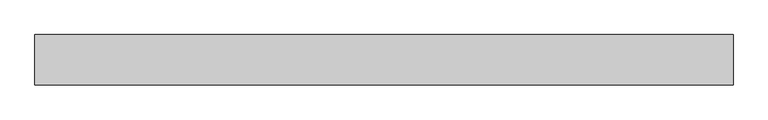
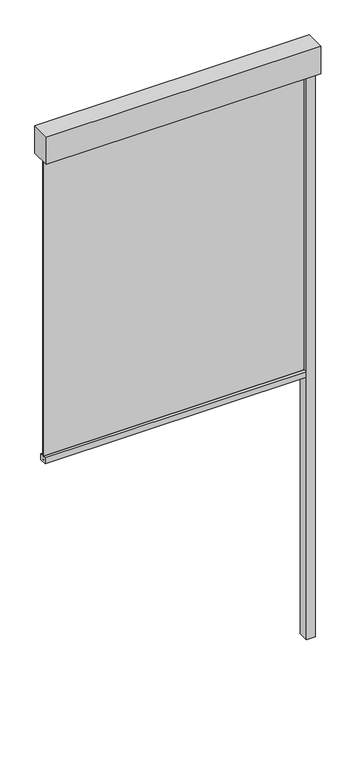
"""IFC4 building model written with IfcOpenShell, lengths in millimetres: proxy geometry, Renson_Fixscreen_Minimal_CW50_Reynaers_End : For Reynaers curtain wall - End element - Access downwards - Fabric close to the window."""

from ifc_helpers import new_model, si_unit, point, frame, frame_2d, origin, origin_with_axes, place, context, project, spatial, polyline, circle_curve, trimmed, segment, composite_curve, outline, extrude, source, transform, mapped, element, save


def generic_models_1d95561a(model_context):
    return source(origin(), model_context, "Body", "SweptSolid", [
        extrude(outline(polyline([(482.0, -693.5959909), (482.0, -703.7336963), (528.0, -703.7336963), (528.0, -693.5959909), (530.0, -693.5959909), (530.0, -751.4959909), (480.0, -751.4959909), (480.0, -693.5959909), (482.0, -693.5959909)])), origin_with_axes(), (0.0, 0.0, 1.0), 3340.0),
        extrude(outline(polyline([(-995.0, -693.5959909), (530.0, -693.5959909), (530.0, -803.5959909), (-995.0, -803.5959909), (-995.0, -693.5959909)])), frame((0.0, 0.0, 3340.0), z_axis=(0.0, 0.0, 1.0), x_axis=(1.0, 0.0, 0.0)), (0.0, 0.0, 1.0), 160.0),
        extrude(outline(composite_curve([segment(polyline([(-708.5959909, 1540.0), (-749.0958874, 1540.0), (-749.0958874, 1574.1156826), (-731.9717779, 1575.0000198)]), True, "CONTINUOUS"), segment(trimmed(circle_curve(frame_2d((-731.9459909, 1574.5006852)), 0.5), [point((-731.9717779, 1575.0000198))], [point((-731.4459909, 1574.5006852))], False, "CARTESIAN"), True, "CONTINUOUS"), segment(polyline([(-731.4459909, 1574.5006852), (-731.4459909, 1573.5367989), (-732.7111292, 1573.5367989), (-731.9708257, 1569.0119223)]), True, "CONTINUOUS"), segment(trimmed(circle_curve(frame_2d((-771.4459909, 1562.5534911)), 40.0), [point((-731.9708257, 1569.0119223))], [point((-731.4459909, 1562.5534911))], False, "CARTESIAN"), True, "CONTINUOUS"), segment(polyline([(-731.4459909, 1562.5534911), (-731.4459909, 1554.5006852)]), True, "CONTINUOUS"), segment(trimmed(circle_curve(frame_2d((-729.4459909, 1554.5006852)), 2.0), [point((-731.4459909, 1554.5006852))], [point((-729.4459909, 1552.5006852))], True, "CARTESIAN"), True, "CONTINUOUS"), segment(polyline([(-729.4459909, 1552.5006852), (-727.7459909, 1552.5006852)]), True, "CONTINUOUS"), segment(trimmed(circle_curve(frame_2d((-727.7459909, 1554.5006852)), 2.0), [point((-727.7459909, 1552.5006852))], [point((-725.7459909, 1554.5006852))], True, "CARTESIAN"), True, "CONTINUOUS"), segment(polyline([(-725.7459909, 1554.5006852), (-725.7459909, 1562.5534911)]), True, "CONTINUOUS"), segment(trimmed(circle_curve(frame_2d((-685.7459909, 1562.5534911)), 40.0), [point((-725.7459909, 1562.5534911))], [point((-725.221156, 1569.0119223))], False, "CARTESIAN"), True, "CONTINUOUS"), segment(polyline([(-725.221156, 1569.0119223), (-724.4808525, 1573.5367989), (-725.7459909, 1573.5367989), (-725.7459909, 1574.5006852)]), True, "CONTINUOUS"), segment(trimmed(circle_curve(frame_2d((-725.2459909, 1574.5006852)), 0.5), [point((-725.7459909, 1574.5006852))], [point((-725.2194276, 1574.9999791))], False, "CARTESIAN"), True, "CONTINUOUS"), segment(polyline([(-725.2194276, 1574.9999791), (-708.5959909, 1574.1156826), (-708.5959909, 1540.0)]), True, "CONTINUOUS")], self_intersect=False)), frame((-970.0, 0.0, 0.0), z_axis=(1.0, 0.0, 0.0), x_axis=(0.0, 1.0, 0.0)), (0.0, 0.0, 1.0), 1450.0),
        extrude(outline(polyline([(-970.0, -730.0959909), (-970.0, -727.0959909), (480.0, -727.0959909), (480.0, -730.0959909), (-970.0, -730.0959909)])), frame((0.0, 0.0, 1552.5006852), z_axis=(0.0, 0.0, 1.0), x_axis=(1.0, 0.0, 0.0)), (0.0, 0.0, 1.0), 1787.4993148),
    ])


if __name__ == "__main__":
    model = new_model("IFC4")
    model_context = context("Model", 3, world=origin())
    ifc_project = project(units=[si_unit("LENGTHUNIT", "METRE", prefix="MILLI")], contexts=[model_context])
    site = spatial("IfcSite", under=ifc_project)
    building = spatial("IfcBuilding", under=site)
    placement = place(None, origin())
    generic_models_shape = generic_models_1d95561a(model_context)
    element("IfcBuildingElementProxy", 1, Name="Renson_Fixscreen_Minimal_CW50_Reynaers_End : For Reynaers curtain wall - End element - Access downwards - Fabric close to the window", ObjectType="Renson_Fixscreen_Minimal_CW50_Reynaers_End : For Reynaers curtain wall - End element - Access downwards - Fabric close to the window", at=placement, inside=building, context=model_context, shape_type="MappedRepresentation", body=[
        mapped(generic_models_shape, transform((0.0, 0.0, 0.0), x_axis=(1.0, 0.0, 0.0), y_axis=(0.0, 1.0, 0.0), z_axis=(0.0, 0.0, 1.0))),
    ])
    save(model, "model.ifc")
